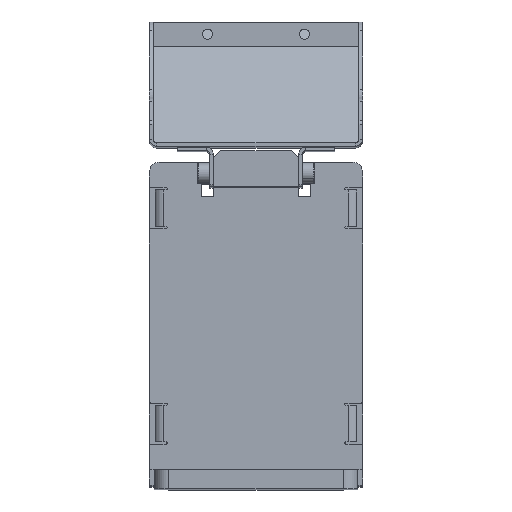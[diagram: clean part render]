
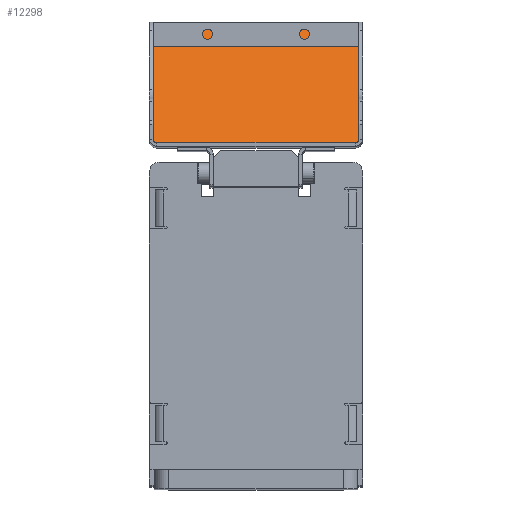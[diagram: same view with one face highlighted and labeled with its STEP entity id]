
A CAD part, top view. The second image highlights one B-rep face of the part: STEP entity #12298.
In plain terms, the highlighted planar face has unit normal (0, 0.5, 0.866) as drawn and (0, 0.5, -0.866) by its records, which use the part's own axes.
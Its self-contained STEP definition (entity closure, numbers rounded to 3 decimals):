
#862 = EDGE_CURVE ( 'NONE', #28908, #18827, #23413, .T. ) ;
#1444 = CARTESIAN_POINT ( 'NONE',  ( 42.429, 0.75, 403.299 ) ) ;
#1757 = LINE ( 'NONE', #32184, #25516 ) ;
#2146 = EDGE_CURVE ( 'NONE', #4903, #31622, #18911, .T. ) ;
#2379 = B_SPLINE_CURVE_WITH_KNOTS ( 'NONE', 3,
 ( #10049, #25609, #15205, #13200, #5228, #18176, #7724 ),
 .UNSPECIFIED., .F., .F.,
 ( 4, 1, 1, 1, 4 ),
 ( 0., 0.262, 0.514, 0.759, 1. ),
 .UNSPECIFIED. ) ;
#2880 = DIRECTION ( 'NONE',  ( 1., 0., 0. ) ) ;
#3933 = CARTESIAN_POINT ( 'NONE',  ( 42.217, 0.75, 403.299 ) ) ;
#4888 = CARTESIAN_POINT ( 'NONE',  ( -42.429, 50.004, 431.736 ) ) ;
#4903 = VERTEX_POINT ( 'NONE', #28799 ) ;
#4975 = FACE_OUTER_BOUND ( 'NONE', #13944, .T. ) ;
#5228 = CARTESIAN_POINT ( 'NONE',  ( 42.421, 1.311, 403.623 ) ) ;
#5485 = EDGE_CURVE ( 'NONE', #18827, #17995, #14677, .T. ) ;
#7724 = CARTESIAN_POINT ( 'NONE',  ( 42.429, 1.5, 403.732 ) ) ;
#7907 = LINE ( 'NONE', #25952, #22766 ) ;
#9119 = DIRECTION ( 'NONE',  ( 0., 0.866, 0.5 ) ) ;
#9211 = CARTESIAN_POINT ( 'NONE',  ( -42.427, 1.437, 403.696 ) ) ;
#10049 = CARTESIAN_POINT ( 'NONE',  ( 42.217, 0.75, 403.299 ) ) ;
#10118 = DIRECTION ( 'NONE',  ( 0., 0.5, -0.866 ) ) ;
#10205 = ORIENTED_EDGE ( 'NONE', *, *, #13967, .F. ) ;
#11855 = CARTESIAN_POINT ( 'NONE',  ( -42.421, 1.311, 403.623 ) ) ;
#12161 = CARTESIAN_POINT ( 'NONE',  ( -42.429, 0.75, 403.299 ) ) ;
#12298 = ADVANCED_FACE ( 'NONE', ( #4975 ), #20234, .T. ) ;
#12961 = DIRECTION ( 'NONE',  ( 0., 0.866, 0.5 ) ) ;
#13200 = CARTESIAN_POINT ( 'NONE',  ( 42.378, 1.122, 403.514 ) ) ;
#13473 = ORIENTED_EDGE ( 'NONE', *, *, #862, .T. ) ;
#13591 = CARTESIAN_POINT ( 'NONE',  ( -42.217, 0.75, 403.299 ) ) ;
#13944 = EDGE_LOOP ( 'NONE', ( #10205, #15380, #21218, #17135, #13473, #26572 ) ) ;
#13967 = EDGE_CURVE ( 'NONE', #31622, #17995, #1757, .T. ) ;
#14677 = LINE ( 'NONE', #12161, #20602 ) ;
#14859 = CARTESIAN_POINT ( 'NONE',  ( -42.429, 1.5, 403.732 ) ) ;
#15205 = CARTESIAN_POINT ( 'NONE',  ( 42.312, 0.934, 403.405 ) ) ;
#15380 = ORIENTED_EDGE ( 'NONE', *, *, #2146, .F. ) ;
#15430 = DIRECTION ( 'NONE',  ( 0., 0.866, 0.5 ) ) ;
#16863 = CARTESIAN_POINT ( 'NONE',  ( -42.378, 1.122, 403.514 ) ) ;
#17135 = ORIENTED_EDGE ( 'NONE', *, *, #21417, .F. ) ;
#17190 = CARTESIAN_POINT ( 'NONE',  ( -42.312, 0.934, 403.405 ) ) ;
#17238 = DIRECTION ( 'NONE',  ( -1., 0., 0. ) ) ;
#17995 = VERTEX_POINT ( 'NONE', #4888 ) ;
#18176 = CARTESIAN_POINT ( 'NONE',  ( 42.427, 1.437, 403.696 ) ) ;
#18827 = VERTEX_POINT ( 'NONE', #26788 ) ;
#18911 = LINE ( 'NONE', #1444, #30285 ) ;
#20130 = CARTESIAN_POINT ( 'NONE',  ( 42.429, 50.004, 431.736 ) ) ;
#20234 = PLANE ( 'NONE',  #20372 ) ;
#20372 = AXIS2_PLACEMENT_3D ( 'NONE', #22711, #10118, #15430 ) ;
#20602 = VECTOR ( 'NONE', #12961, 1000. ) ;
#21218 = ORIENTED_EDGE ( 'NONE', *, *, #23031, .F. ) ;
#21417 = EDGE_CURVE ( 'NONE', #28908, #31139, #7907, .T. ) ;
#22142 = CARTESIAN_POINT ( 'NONE',  ( -42.217, 0.75, 403.299 ) ) ;
#22711 = CARTESIAN_POINT ( 'NONE',  ( 0., -174.071, 302.366 ) ) ;
#22766 = VECTOR ( 'NONE', #2880, 1000. ) ;
#23031 = EDGE_CURVE ( 'NONE', #31139, #4903, #2379, .T. ) ;
#23413 = B_SPLINE_CURVE_WITH_KNOTS ( 'NONE', 3,
 ( #22142, #26950, #17190, #16863, #11855, #9211, #14859 ),
 .UNSPECIFIED., .F., .F.,
 ( 4, 1, 1, 1, 4 ),
 ( 0., 0.262, 0.514, 0.759, 1. ),
 .UNSPECIFIED. ) ;
#25516 = VECTOR ( 'NONE', #17238, 1000. ) ;
#25609 = CARTESIAN_POINT ( 'NONE',  ( 42.249, 0.812, 403.335 ) ) ;
#25952 = CARTESIAN_POINT ( 'NONE',  ( -41., 0.75, 403.299 ) ) ;
#26572 = ORIENTED_EDGE ( 'NONE', *, *, #5485, .T. ) ;
#26788 = CARTESIAN_POINT ( 'NONE',  ( -42.429, 1.5, 403.732 ) ) ;
#26950 = CARTESIAN_POINT ( 'NONE',  ( -42.249, 0.812, 403.335 ) ) ;
#28799 = CARTESIAN_POINT ( 'NONE',  ( 42.429, 1.5, 403.732 ) ) ;
#28908 = VERTEX_POINT ( 'NONE', #13591 ) ;
#30285 = VECTOR ( 'NONE', #9119, 1000. ) ;
#31139 = VERTEX_POINT ( 'NONE', #3933 ) ;
#31622 = VERTEX_POINT ( 'NONE', #20130 ) ;
#32184 = CARTESIAN_POINT ( 'NONE',  ( -41., 50.004, 431.736 ) ) ;
